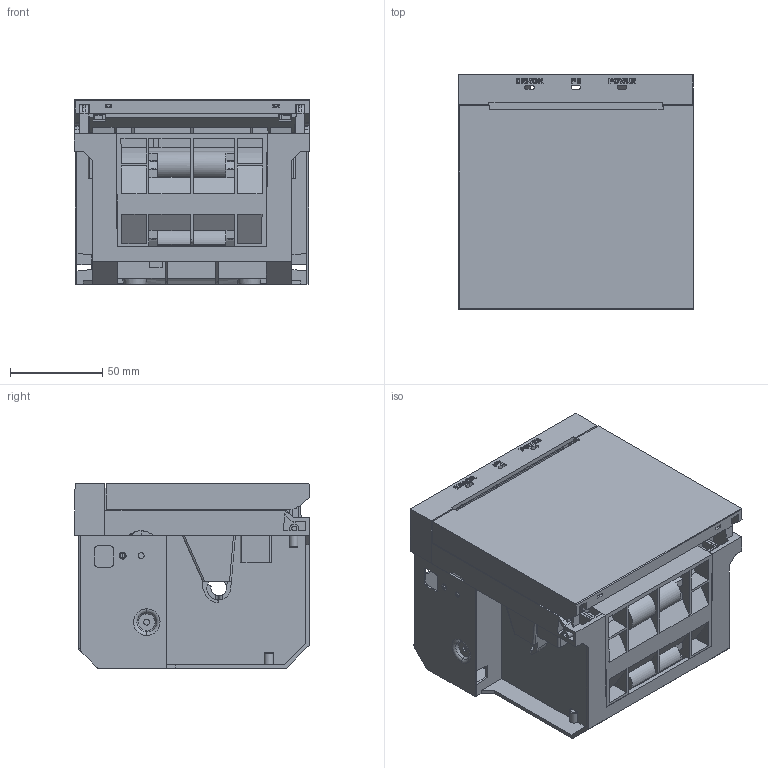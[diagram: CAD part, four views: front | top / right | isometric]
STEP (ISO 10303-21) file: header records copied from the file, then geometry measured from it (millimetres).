
FILE_DESCRIPTION((''),'2;1');
FILE_NAME('MS-FPT302-KG_ASM','2020-04-14T',('Administrator'),(''),'PRO/ENGINEER BY PARAMETRIC TECHNOLOGY CORPORATION, 2013430','PRO/ENGINEER BY PARAMETRIC TECHNOLOGY CORPORATION, 2013430','');
FILE_SCHEMA(('CONFIG_CONTROL_DESIGN'));
Products named in the file (14): PRT0080_1; PRT0116_1; PRT0117_1; PRT0081_1; PRT0106_1; PRT0107_1; PRT0108_1; PRT0111_1; ASM0002_ASM_1_ASM; PRT0143_1; PRT0148_1; ASM0001_ASM_1_ASM; MS-FPT302_ASM_1_ASM; MS-FPT302-KG_ASM
Assembly tree (13 placements, depth 5):
  MS-FPT302-KG_ASM
    MS-FPT302_ASM_1_ASM
      ASM0001_ASM_1_ASM
        PRT0080_1
        PRT0116_1
        PRT0117_1
        ASM0002_ASM_1_ASM
          PRT0081_1
          PRT0106_1
          PRT0107_1
          PRT0108_1
          PRT0111_1
        PRT0143_1
        PRT0148_1
Bounding box: 127.2 x 127 x 100 mm (x, y, z)
Volume: 658698.4 mm3; surface area: 301783.3 mm2
Topology: 10 solids, 10 shells, 2798 faces, 8142 edges, 5439 vertices
Faces by surface type: plane 1744, cylinder 782, extrusion 180, cone 32, torus 26, sphere 20, bspline 14
Entity records: 97039 total; most frequent: CARTESIAN_POINT 22037, ORIENTED_EDGE 16244, DIRECTION 14707, EDGE_CURVE 8122, VECTOR 5755, LINE 5575, VERTEX_POINT 5439, AXIS2_PLACEMENT_3D 4476
